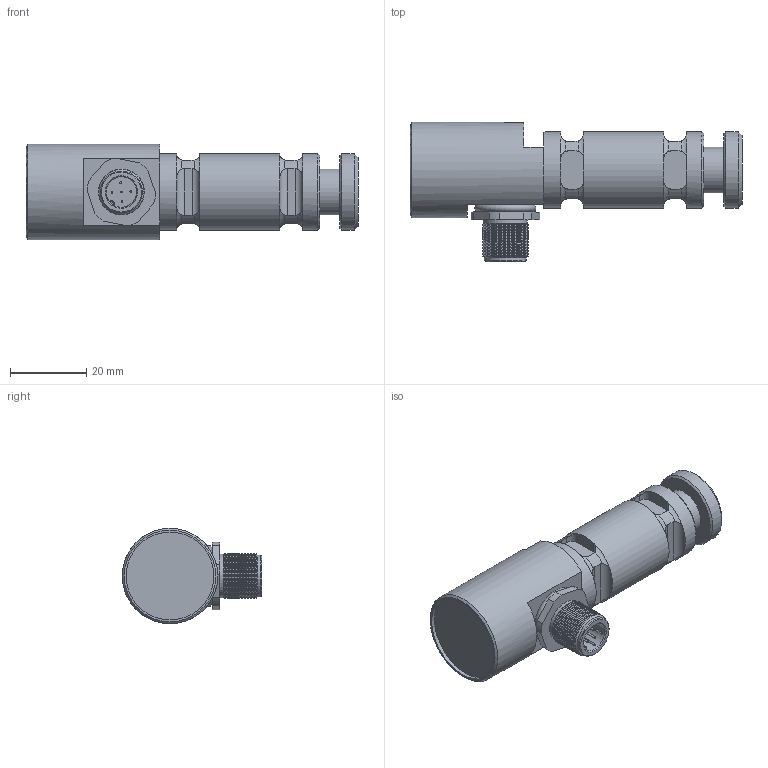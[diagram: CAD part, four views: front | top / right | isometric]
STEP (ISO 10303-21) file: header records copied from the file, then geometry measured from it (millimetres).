
FILE_DESCRIPTION(/* description */ ('Alibre Inc.'),/* implementation_level */ '2;1');
FILE_NAME(/* name */ 'export-3A025C4A-6F92-419B-8190-91507E606EA0',/* time_stamp */ '2021-09-28T08:37:47+02:00',/* author */ (''),/* organization */ (''),/* preprocessor_version */ 'ST-DEVELOPER v17',/* originating_system */ 'Alibre',/* authorisation */ '');
FILE_SCHEMA (('CONFIG_CONTROL_DESIGN'));
Length unit declared in the file: millimetre
Bounding box: 87 x 36.5 x 25 mm (x, y, z)
Surface area: 161495.4 mm2
Topology: 7 solids, 8 shells, 265 faces, 587 edges, 346 vertices
Faces by surface type: cylinder 91, plane 83, cone 73, torus 18
Full cylindrical faces by diameter (mm): 0.5 x10, 8 x2, 10 x1, 11 x1, 11.5 x1, 12 x22, 13 x2, 14.5 x1, 20 x4, 23 x1, 25 x1
Entity records: 6553 total; most frequent: CARTESIAN_POINT 1664, ORIENTED_EDGE 954, DIRECTION 765, EDGE_CURVE 471, EDGE_LOOP 385, FACE_BOUND 385, AXIS2_PLACEMENT_3D 354, VERTEX_POINT 330
